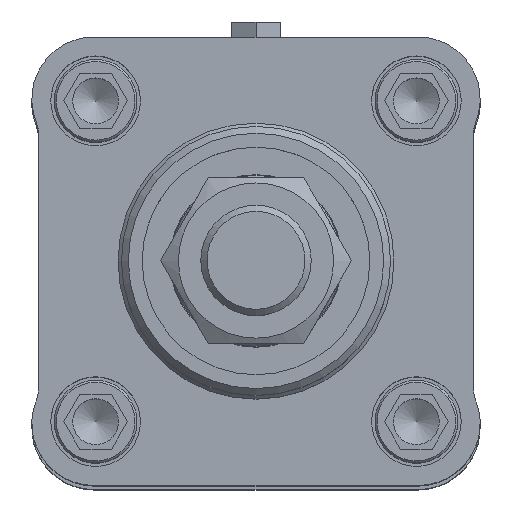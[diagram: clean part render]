
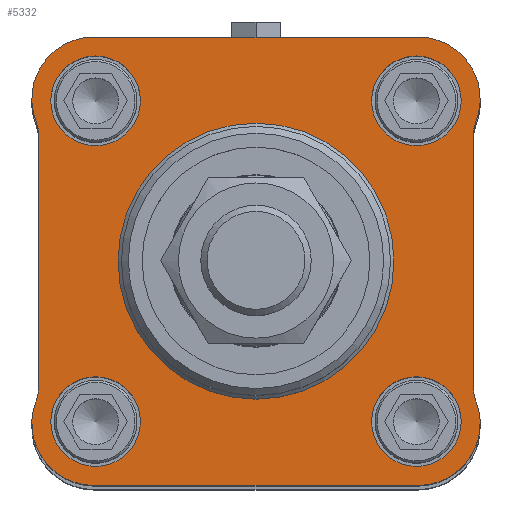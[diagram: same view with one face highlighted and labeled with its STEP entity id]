
A CAD part, top view. The second image highlights one B-rep face of the part: STEP entity #5332.
In plain terms, the highlighted planar face has unit normal (0, 0, 1) as drawn and (-1, 0, 0) by its records, which use the part's own axes.
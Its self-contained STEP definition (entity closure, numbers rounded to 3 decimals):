
#263=LINE('',#7747,#507);
#268=LINE('',#7765,#512);
#273=LINE('',#7783,#517);
#278=LINE('',#7801,#522);
#507=VECTOR('',#6588,1000.);
#512=VECTOR('',#6607,1000.);
#517=VECTOR('',#6626,1000.);
#522=VECTOR('',#6645,1000.);
#669=PLANE('',#5742);
#1273=ORIENTED_EDGE('',*,*,#1959,.T.);
#1274=ORIENTED_EDGE('',*,*,#1960,.T.);
#1275=ORIENTED_EDGE('',*,*,#1961,.T.);
#1276=ORIENTED_EDGE('',*,*,#1962,.T.);
#1277=ORIENTED_EDGE('',*,*,#1917,.F.);
#1278=ORIENTED_EDGE('',*,*,#1925,.F.);
#1279=ORIENTED_EDGE('',*,*,#1958,.F.);
#1280=ORIENTED_EDGE('',*,*,#1955,.T.);
#1281=ORIENTED_EDGE('',*,*,#1952,.F.);
#1282=ORIENTED_EDGE('',*,*,#1949,.T.);
#1283=ORIENTED_EDGE('',*,*,#1946,.F.);
#1284=ORIENTED_EDGE('',*,*,#1943,.F.);
#1285=ORIENTED_EDGE('',*,*,#1940,.F.);
#1286=ORIENTED_EDGE('',*,*,#1937,.T.);
#1287=ORIENTED_EDGE('',*,*,#1934,.F.);
#1288=ORIENTED_EDGE('',*,*,#1931,.T.);
#1289=ORIENTED_EDGE('',*,*,#1928,.F.);
#1917=EDGE_CURVE('',#2333,#2333,#2592,.F.);
#1925=EDGE_CURVE('',#2341,#2342,#263,.T.);
#1928=EDGE_CURVE('',#2342,#2344,#2599,.T.);
#1931=EDGE_CURVE('',#2346,#2344,#2601,.T.);
#1934=EDGE_CURVE('',#2346,#2348,#268,.T.);
#1937=EDGE_CURVE('',#2350,#2348,#2603,.T.);
#1940=EDGE_CURVE('',#2350,#2352,#2605,.T.);
#1943=EDGE_CURVE('',#2352,#2354,#273,.T.);
#1946=EDGE_CURVE('',#2354,#2356,#2607,.T.);
#1949=EDGE_CURVE('',#2358,#2356,#2609,.T.);
#1952=EDGE_CURVE('',#2358,#2360,#278,.T.);
#1955=EDGE_CURVE('',#2362,#2360,#2611,.T.);
#1958=EDGE_CURVE('',#2362,#2341,#2613,.T.);
#1959=EDGE_CURVE('',#2363,#2363,#2614,.T.);
#1960=EDGE_CURVE('',#2364,#2364,#2615,.T.);
#1961=EDGE_CURVE('',#2365,#2365,#2616,.T.);
#1962=EDGE_CURVE('',#2366,#2366,#2617,.T.);
#2333=VERTEX_POINT('',#7726);
#2341=VERTEX_POINT('',#7746);
#2342=VERTEX_POINT('',#7748);
#2344=VERTEX_POINT('',#7754);
#2346=VERTEX_POINT('',#7760);
#2348=VERTEX_POINT('',#7766);
#2350=VERTEX_POINT('',#7772);
#2352=VERTEX_POINT('',#7778);
#2354=VERTEX_POINT('',#7784);
#2356=VERTEX_POINT('',#7790);
#2358=VERTEX_POINT('',#7796);
#2360=VERTEX_POINT('',#7802);
#2362=VERTEX_POINT('',#7808);
#2363=VERTEX_POINT('',#7815);
#2364=VERTEX_POINT('',#7817);
#2365=VERTEX_POINT('',#7819);
#2366=VERTEX_POINT('',#7821);
#2592=CIRCLE('',#5704,20.);
#2599=CIRCLE('',#5717,9.);
#2601=CIRCLE('',#5720,4.5);
#2603=CIRCLE('',#5724,4.5);
#2605=CIRCLE('',#5727,9.);
#2607=CIRCLE('',#5731,9.);
#2609=CIRCLE('',#5734,4.5);
#2611=CIRCLE('',#5738,4.5);
#2613=CIRCLE('',#5741,9.);
#2614=CIRCLE('',#5743,6.5);
#2615=CIRCLE('',#5744,6.5);
#2616=CIRCLE('',#5745,6.5);
#2617=CIRCLE('',#5746,6.5);
#2925=EDGE_LOOP('',(#1273));
#2926=EDGE_LOOP('',(#1274));
#2927=EDGE_LOOP('',(#1275));
#2928=EDGE_LOOP('',(#1276));
#2929=EDGE_LOOP('',(#1277));
#2930=EDGE_LOOP('',(#1278,#1279,#1280,#1281,#1282,#1283,#1284,#1285,#1286,
#1287,#1288,#1289));
#3346=FACE_BOUND('',#2925,.T.);
#3347=FACE_BOUND('',#2926,.T.);
#3348=FACE_BOUND('',#2927,.T.);
#3349=FACE_BOUND('',#2928,.T.);
#3350=FACE_BOUND('',#2929,.T.);
#3351=FACE_BOUND('',#2930,.T.);
#5332=ADVANCED_FACE('',(#3346,#3347,#3348,#3349,#3350,#3351),#669,.F.);
#5704=AXIS2_PLACEMENT_3D('',#7725,#6564,#6565);
#5717=AXIS2_PLACEMENT_3D('',#7753,#6594,#6595);
#5720=AXIS2_PLACEMENT_3D('',#7759,#6601,#6602);
#5724=AXIS2_PLACEMENT_3D('',#7771,#6613,#6614);
#5727=AXIS2_PLACEMENT_3D('',#7777,#6620,#6621);
#5731=AXIS2_PLACEMENT_3D('',#7789,#6632,#6633);
#5734=AXIS2_PLACEMENT_3D('',#7795,#6639,#6640);
#5738=AXIS2_PLACEMENT_3D('',#7807,#6651,#6652);
#5741=AXIS2_PLACEMENT_3D('',#7812,#6658,#6659);
#5742=AXIS2_PLACEMENT_3D('',#7813,#6660,#6661);
#5743=AXIS2_PLACEMENT_3D('',#7814,#6662,#6663);
#5744=AXIS2_PLACEMENT_3D('',#7816,#6664,#6665);
#5745=AXIS2_PLACEMENT_3D('',#7818,#6666,#6667);
#5746=AXIS2_PLACEMENT_3D('',#7820,#6668,#6669);
#6564=DIRECTION('',(1.,0.,0.));
#6565=DIRECTION('',(0.,0.,-1.));
#6588=DIRECTION('',(0.,-1.,0.));
#6594=DIRECTION('',(1.,0.,0.));
#6595=DIRECTION('',(0.,0.,-1.));
#6601=DIRECTION('',(1.,0.,0.));
#6602=DIRECTION('',(0.,0.,-1.));
#6607=DIRECTION('',(0.,0.,-1.));
#6613=DIRECTION('',(1.,0.,0.));
#6614=DIRECTION('',(0.,0.,-1.));
#6620=DIRECTION('',(1.,0.,0.));
#6621=DIRECTION('',(0.,0.,-1.));
#6626=DIRECTION('',(0.,1.,0.));
#6632=DIRECTION('',(1.,0.,0.));
#6633=DIRECTION('',(0.,0.,-1.));
#6639=DIRECTION('',(1.,0.,0.));
#6640=DIRECTION('',(0.,0.,-1.));
#6645=DIRECTION('',(0.,0.,1.));
#6651=DIRECTION('',(1.,0.,0.));
#6652=DIRECTION('',(0.,0.,-1.));
#6658=DIRECTION('',(1.,0.,0.));
#6659=DIRECTION('',(0.,0.,-1.));
#6660=DIRECTION('',(1.,0.,0.));
#6661=DIRECTION('',(0.,0.,-1.));
#6662=DIRECTION('',(1.,0.,0.));
#6663=DIRECTION('',(0.,0.,-1.));
#6664=DIRECTION('',(1.,0.,0.));
#6665=DIRECTION('',(0.,0.,-1.));
#6666=DIRECTION('',(1.,0.,0.));
#6667=DIRECTION('',(0.,0.,-1.));
#6668=DIRECTION('',(1.,0.,0.));
#6669=DIRECTION('',(0.,0.,-1.));
#7725=CARTESIAN_POINT('',(-36.,0.,0.));
#7726=CARTESIAN_POINT('',(-36.,0.,-20.));
#7746=CARTESIAN_POINT('',(-36.,23.5,32.5));
#7747=CARTESIAN_POINT('',(-36.,23.5,32.5));
#7748=CARTESIAN_POINT('',(-36.,-23.5,32.5));
#7753=CARTESIAN_POINT('',(-36.,-23.5,23.5));
#7754=CARTESIAN_POINT('',(-36.,-31.833,20.101));
#7759=CARTESIAN_POINT('',(-36.,-36.,18.401));
#7760=CARTESIAN_POINT('',(-36.,-31.5,18.401));
#7765=CARTESIAN_POINT('',(-36.,-31.5,18.401));
#7766=CARTESIAN_POINT('',(-36.,-31.5,-18.401));
#7771=CARTESIAN_POINT('',(-36.,-36.,-18.401));
#7772=CARTESIAN_POINT('',(-36.,-31.833,-20.101));
#7777=CARTESIAN_POINT('',(-36.,-23.5,-23.5));
#7778=CARTESIAN_POINT('',(-36.,-23.5,-32.5));
#7783=CARTESIAN_POINT('',(-36.,-23.5,-32.5));
#7784=CARTESIAN_POINT('',(-36.,23.5,-32.5));
#7789=CARTESIAN_POINT('',(-36.,23.5,-23.5));
#7790=CARTESIAN_POINT('',(-36.,31.833,-20.101));
#7795=CARTESIAN_POINT('',(-36.,36.,-18.401));
#7796=CARTESIAN_POINT('',(-36.,31.5,-18.401));
#7801=CARTESIAN_POINT('',(-36.,31.5,-18.401));
#7802=CARTESIAN_POINT('',(-36.,31.5,18.401));
#7807=CARTESIAN_POINT('',(-36.,36.,18.401));
#7808=CARTESIAN_POINT('',(-36.,31.833,20.101));
#7812=CARTESIAN_POINT('',(-36.,23.5,23.5));
#7813=CARTESIAN_POINT('',(-36.,-23.5,23.5));
#7814=CARTESIAN_POINT('',(-36.,-23.25,23.25));
#7815=CARTESIAN_POINT('',(-36.,-23.25,16.75));
#7816=CARTESIAN_POINT('',(-36.,-23.25,-23.25));
#7817=CARTESIAN_POINT('',(-36.,-23.25,-29.75));
#7818=CARTESIAN_POINT('',(-36.,23.25,-23.25));
#7819=CARTESIAN_POINT('',(-36.,23.25,-29.75));
#7820=CARTESIAN_POINT('',(-36.,23.25,23.25));
#7821=CARTESIAN_POINT('',(-36.,23.25,16.75));
